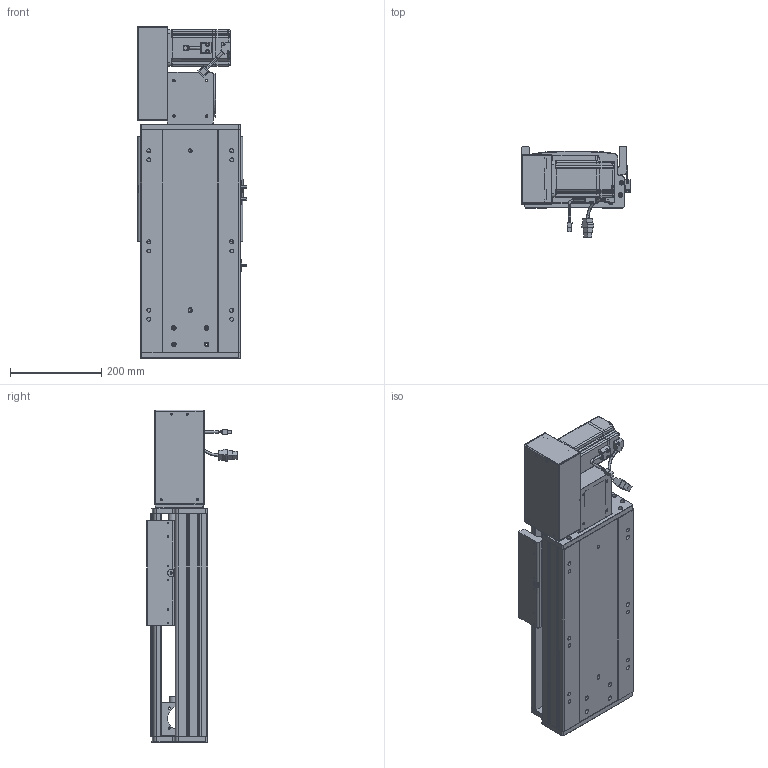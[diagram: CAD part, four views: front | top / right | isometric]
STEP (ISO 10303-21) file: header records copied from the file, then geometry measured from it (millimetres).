
FILE_DESCRIPTION (( 'STEP AP203' ), '1' );
FILE_NAME ('RY220-T-300-LK.SLDASM_150.step', '2022-07-25T08:12:52', ( '' ), ( '' ), 'SwSTEP 2.0', 'SolidWorks 2016', '' );
FILE_SCHEMA (( 'CONFIG_CONTROL_DESIGN' ));
Length unit declared in the file: millimetre
Products named in the file (14): RY220-T-蛌殏萇儂假蚾啣(750W); RY220-T菁釱-300_150; RY220-T-300-奻裔啣_150; RY220圉猾敕々湍臏賑輸; RY220-T-300-LK.SLDASM_150; 怢湛750W_ECMA-CX0807ES; RY220翋肮祭謫釱; RY220翋肮祭謫裔啣; 滅袉蝶18-15; RY220-同步轮副支撑座6304×2; 覜茼ん672; RY220-T-湍謫欶(鍼踢); 110A-T-肮祭謫釱傷裔; RY220-俋离672覜茼んえ
Assembly tree (18 placements, depth 2):
  RY220-T-300-LK.SLDASM_150
    RY220-T菁釱-300_150
    RY220翋肮祭謫釱
    覜茼ん672  x3
    RY220圉猾敕々湍臏賑輸
    RY220-T-300-奻裔啣_150
    RY220-俋离672覜茼んえ
    滅袉蝶18-15  x3
    RY220翋肮祭謫裔啣  x2
    110A-T-肮祭謫釱傷裔
    怢湛750W_ECMA-CX0807ES
    RY220-T-湍謫欶(鍼踢)
    RY220-T-蛌殏萇儂假蚾啣(750W)
    RY220-同步轮副支撑座6304×2
Bounding box: 239.7 x 198.77 x 729 mm (x, y, z)
Volume: 6759457.5 mm3; surface area: 1787443.6 mm2
Topology: 19 solids, 19 shells, 2456 faces, 6763 edges, 4322 vertices
Faces by surface type: cylinder 1112, plane 1069, cone 193, bspline 56, sphere 16, torus 10
Entity records: 81523 total; most frequent: CARTESIAN_POINT 23393, ORIENTED_EDGE 12122, DIRECTION 11308, EDGE_CURVE 6061, AXIS2_PLACEMENT_3D 3946, VERTEX_POINT 3946, LINE 3416, VECTOR 3416
